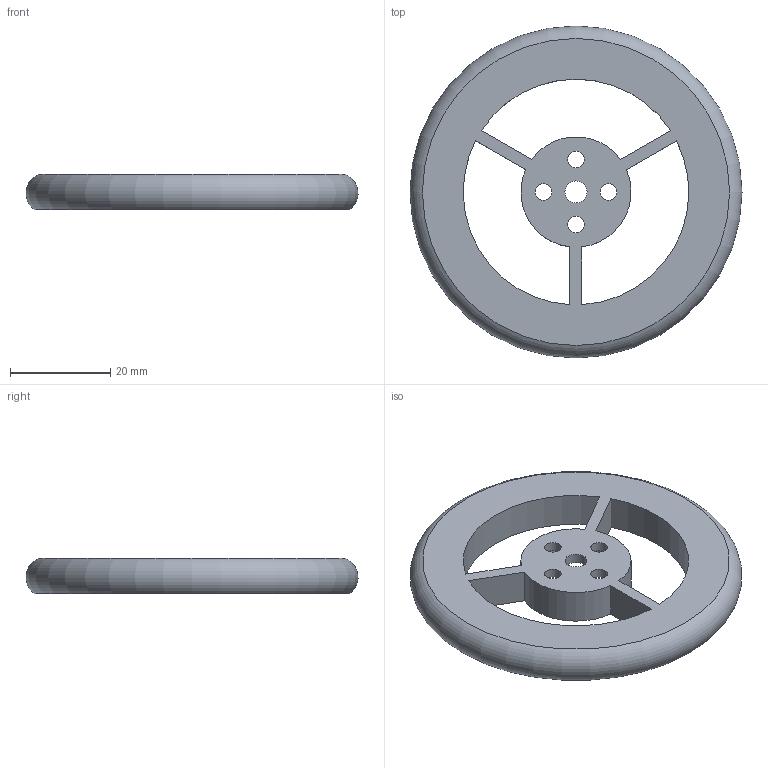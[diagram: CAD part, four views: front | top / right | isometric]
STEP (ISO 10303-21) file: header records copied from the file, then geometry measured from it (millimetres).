
FILE_DESCRIPTION(/* description */ (''),/* implementation_level */ '2;1');
FILE_NAME(/* name */ 'C:/Users/priba/Downloads/wheel65.step',/* time_stamp */ '2020-11-25T21:18:24+01:00',/* author */ (''),/* organization */ (''),/* preprocessor_version */ 'ST-DEVELOPER v18.1',/* originating_system */ 'Autodesk Translation Framework v9.3.0.1241',/* authorisation */ '');
FILE_SCHEMA (('AUTOMOTIVE_DESIGN { 1 0 10303 214 3 1 1 }'));
Length unit declared in the file: millimetre
Products named in the file (1): wheel65
Bounding box: 66.23 x 66.23 x 7 mm (x, y, z)
Volume: 4769.3 mm3; surface area: 11836.3 mm2
Topology: 1 solids, 1 shells, 171 faces, 454 edges, 300 vertices
Faces by surface type: plane 139, bspline 16, cylinder 14, torus 2
Full cylindrical faces by diameter (mm): 3.3 x4, 4.4 x1, 19.4 x1
Entity records: 5710 total; most frequent: CARTESIAN_POINT 1212, ORIENTED_EDGE 936, DIRECTION 846, EDGE_CURVE 468, LINE 402, VECTOR 402, VERTEX_POINT 300, EDGE_LOOP 252
